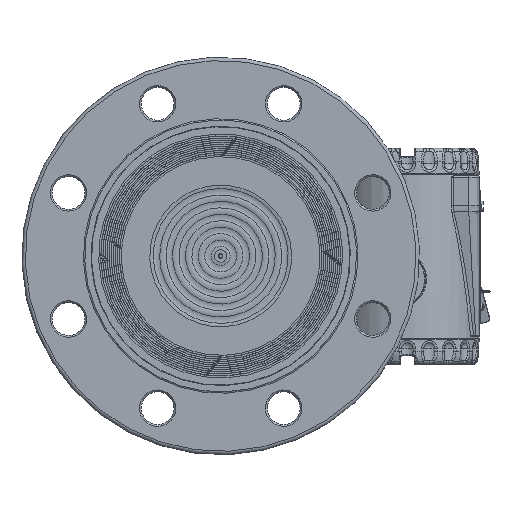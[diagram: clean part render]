
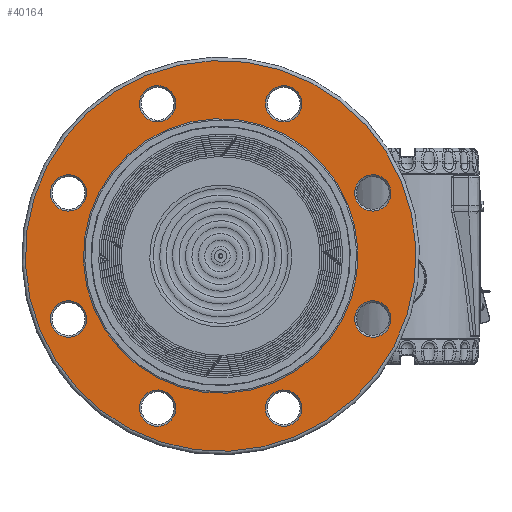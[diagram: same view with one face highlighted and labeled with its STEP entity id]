
A CAD part, top view. The second image highlights one B-rep face of the part: STEP entity #40164.
In plain terms, the highlighted planar face has unit normal (0, 0, 1) as drawn and (-1, 0, 0) by its records, which use the part's own axes.
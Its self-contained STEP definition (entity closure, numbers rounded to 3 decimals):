
#669=FACE_BOUND('',#6639,.T.);
#670=FACE_BOUND('',#6640,.T.);
#671=FACE_BOUND('',#6641,.T.);
#672=FACE_BOUND('',#6642,.T.);
#673=FACE_BOUND('',#6643,.T.);
#674=FACE_BOUND('',#6644,.T.);
#675=FACE_BOUND('',#6645,.T.);
#676=FACE_BOUND('',#6646,.T.);
#677=FACE_BOUND('',#6647,.T.);
#2588=PLANE('',#44620);
#3958=FACE_OUTER_BOUND('',#6638,.T.);
#6638=EDGE_LOOP('',(#30672,#30673));
#6639=EDGE_LOOP('',(#30674));
#6640=EDGE_LOOP('',(#30675));
#6641=EDGE_LOOP('',(#30676));
#6642=EDGE_LOOP('',(#30677));
#6643=EDGE_LOOP('',(#30678,#30679));
#6644=EDGE_LOOP('',(#30680));
#6645=EDGE_LOOP('',(#30681));
#6646=EDGE_LOOP('',(#30682));
#6647=EDGE_LOOP('',(#30683));
#13262=CIRCLE('',#44619,10.5);
#13263=CIRCLE('',#44621,113.);
#13264=CIRCLE('',#44622,113.);
#13265=CIRCLE('',#44623,10.5);
#13266=CIRCLE('',#44624,10.5);
#13267=CIRCLE('',#44625,10.5);
#13268=CIRCLE('',#44626,10.5);
#13269=CIRCLE('',#44627,79.4);
#13270=CIRCLE('',#44628,79.4);
#13271=CIRCLE('',#44629,10.5);
#13272=CIRCLE('',#44630,10.5);
#13273=CIRCLE('',#44631,10.5);
#17605=VERTEX_POINT('',#70997);
#17606=VERTEX_POINT('',#71001);
#17607=VERTEX_POINT('',#71002);
#17608=VERTEX_POINT('',#71005);
#17609=VERTEX_POINT('',#71007);
#17610=VERTEX_POINT('',#71009);
#17611=VERTEX_POINT('',#71011);
#17612=VERTEX_POINT('',#71013);
#17613=VERTEX_POINT('',#71014);
#17614=VERTEX_POINT('',#71017);
#17615=VERTEX_POINT('',#71019);
#17616=VERTEX_POINT('',#71021);
#22240=EDGE_CURVE('',#17605,#17605,#13262,.T.);
#22242=EDGE_CURVE('',#17606,#17607,#13263,.T.);
#22243=EDGE_CURVE('',#17607,#17606,#13264,.T.);
#22244=EDGE_CURVE('',#17608,#17608,#13265,.T.);
#22245=EDGE_CURVE('',#17609,#17609,#13266,.T.);
#22246=EDGE_CURVE('',#17610,#17610,#13267,.T.);
#22247=EDGE_CURVE('',#17611,#17611,#13268,.T.);
#22248=EDGE_CURVE('',#17612,#17613,#13269,.T.);
#22249=EDGE_CURVE('',#17613,#17612,#13270,.T.);
#22250=EDGE_CURVE('',#17614,#17614,#13271,.T.);
#22251=EDGE_CURVE('',#17615,#17615,#13272,.T.);
#22252=EDGE_CURVE('',#17616,#17616,#13273,.T.);
#30672=ORIENTED_EDGE('',*,*,#22242,.F.);
#30673=ORIENTED_EDGE('',*,*,#22243,.F.);
#30674=ORIENTED_EDGE('',*,*,#22244,.F.);
#30675=ORIENTED_EDGE('',*,*,#22245,.F.);
#30676=ORIENTED_EDGE('',*,*,#22246,.F.);
#30677=ORIENTED_EDGE('',*,*,#22247,.F.);
#30678=ORIENTED_EDGE('',*,*,#22248,.T.);
#30679=ORIENTED_EDGE('',*,*,#22249,.T.);
#30680=ORIENTED_EDGE('',*,*,#22250,.F.);
#30681=ORIENTED_EDGE('',*,*,#22251,.F.);
#30682=ORIENTED_EDGE('',*,*,#22252,.F.);
#30683=ORIENTED_EDGE('',*,*,#22240,.F.);
#40164=ADVANCED_FACE('',(#3958,#669,#670,#671,#672,#673,#674,#675,#676,
#677),#2588,.T.);
#44619=AXIS2_PLACEMENT_3D('',#70998,#52546,#52547);
#44620=AXIS2_PLACEMENT_3D('',#71000,#52549,#52550);
#44621=AXIS2_PLACEMENT_3D('',#71003,#52551,#52552);
#44622=AXIS2_PLACEMENT_3D('',#71004,#52553,#52554);
#44623=AXIS2_PLACEMENT_3D('',#71006,#52555,#52556);
#44624=AXIS2_PLACEMENT_3D('',#71008,#52557,#52558);
#44625=AXIS2_PLACEMENT_3D('',#71010,#52559,#52560);
#44626=AXIS2_PLACEMENT_3D('',#71012,#52561,#52562);
#44627=AXIS2_PLACEMENT_3D('',#71015,#52563,#52564);
#44628=AXIS2_PLACEMENT_3D('',#71016,#52565,#52566);
#44629=AXIS2_PLACEMENT_3D('',#71018,#52567,#52568);
#44630=AXIS2_PLACEMENT_3D('',#71020,#52569,#52570);
#44631=AXIS2_PLACEMENT_3D('',#71022,#52571,#52572);
#52546=DIRECTION('center_axis',(-1.,0.,0.));
#52547=DIRECTION('ref_axis',(0.,-0.707,-0.707));
#52549=DIRECTION('center_axis',(-1.,0.,0.));
#52550=DIRECTION('ref_axis',(0.,0.,1.));
#52551=DIRECTION('center_axis',(1.,0.,0.));
#52552=DIRECTION('ref_axis',(0.,1.,0.));
#52553=DIRECTION('center_axis',(1.,0.,0.));
#52554=DIRECTION('ref_axis',(0.,1.,0.));
#52555=DIRECTION('center_axis',(-1.,0.,0.));
#52556=DIRECTION('ref_axis',(0.,-1.,0.));
#52557=DIRECTION('center_axis',(-1.,0.,0.));
#52558=DIRECTION('ref_axis',(0.,0.,1.));
#52559=DIRECTION('center_axis',(-1.,0.,0.));
#52560=DIRECTION('ref_axis',(0.,1.,0.));
#52561=DIRECTION('center_axis',(-1.,0.,0.));
#52562=DIRECTION('ref_axis',(0.,0.,-1.));
#52563=DIRECTION('center_axis',(1.,0.,0.));
#52564=DIRECTION('ref_axis',(0.,1.,0.));
#52565=DIRECTION('center_axis',(1.,0.,0.));
#52566=DIRECTION('ref_axis',(0.,1.,0.));
#52567=DIRECTION('center_axis',(-1.,0.,0.));
#52568=DIRECTION('ref_axis',(0.,0.707,-0.707));
#52569=DIRECTION('center_axis',(-1.,0.,0.));
#52570=DIRECTION('ref_axis',(0.,0.707,0.707));
#52571=DIRECTION('center_axis',(-1.,0.,0.));
#52572=DIRECTION('ref_axis',(0.,-0.707,0.707));
#70997=CARTESIAN_POINT('',(2.,74.777,74.777));
#70998=CARTESIAN_POINT('Origin',(2.,67.352,67.352));
#71000=CARTESIAN_POINT('Origin',(2.,96.2,0.));
#71001=CARTESIAN_POINT('',(2.,113.,0.));
#71002=CARTESIAN_POINT('',(2.,0.,113.));
#71003=CARTESIAN_POINT('Origin',(2.,0.,0.));
#71004=CARTESIAN_POINT('Origin',(2.,0.,0.));
#71005=CARTESIAN_POINT('',(2.,105.75,0.));
#71006=CARTESIAN_POINT('Origin',(2.,95.25,0.));
#71007=CARTESIAN_POINT('',(2.,0.,-105.75));
#71008=CARTESIAN_POINT('Origin',(2.,0.,-95.25));
#71009=CARTESIAN_POINT('',(2.,-105.75,0.));
#71010=CARTESIAN_POINT('Origin',(2.,-95.25,0.));
#71011=CARTESIAN_POINT('',(2.,0.,105.75));
#71012=CARTESIAN_POINT('Origin',(2.,0.,95.25));
#71013=CARTESIAN_POINT('',(2.,79.4,0.));
#71014=CARTESIAN_POINT('',(2.,0.,79.4));
#71015=CARTESIAN_POINT('Origin',(2.,0.,0.));
#71016=CARTESIAN_POINT('Origin',(2.,0.,0.));
#71017=CARTESIAN_POINT('',(2.,-74.777,74.777));
#71018=CARTESIAN_POINT('Origin',(2.,-67.352,67.352));
#71019=CARTESIAN_POINT('',(2.,-74.777,-74.777));
#71020=CARTESIAN_POINT('Origin',(2.,-67.352,-67.352));
#71021=CARTESIAN_POINT('',(2.,74.777,-74.777));
#71022=CARTESIAN_POINT('Origin',(2.,67.352,-67.352));
